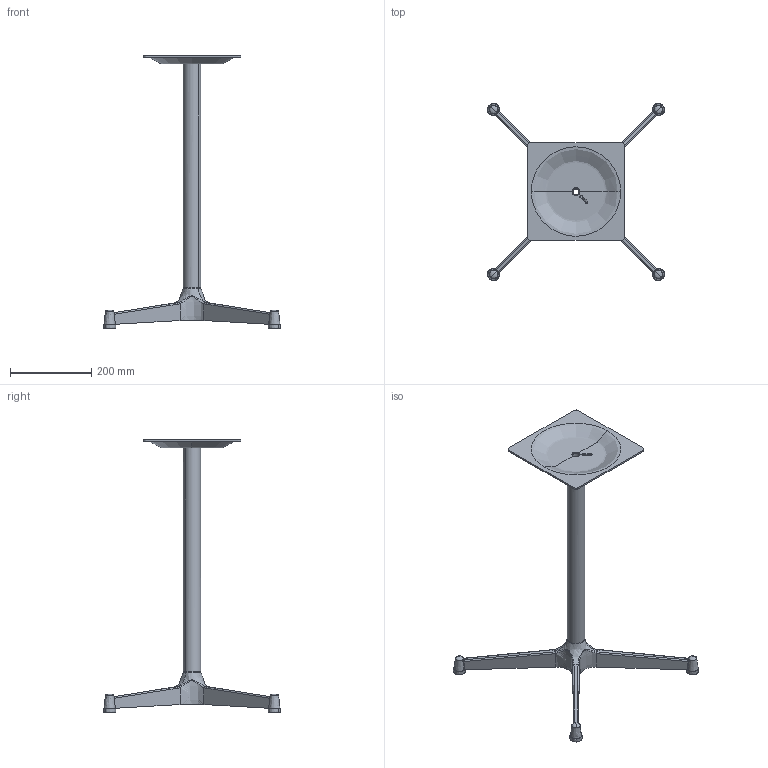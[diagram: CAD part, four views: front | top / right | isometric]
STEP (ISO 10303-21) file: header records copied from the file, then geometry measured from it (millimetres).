
FILE_DESCRIPTION(/* description */ (''),/* implementation_level */ '2;1');
FILE_NAME(/* name */ 'kinoshita_coccole_cl12b',/* time_stamp */ '2025-05-09T11:52:15+09:00',/* author */ (''),/* organization */ (''),/* preprocessor_version */ 'ST-DEVELOPER v16.5',/* originating_system */ '',/* authorisation */ '');
FILE_SCHEMA (('AUTOMOTIVE_DESIGN'));
Length unit declared in the file: millimetre
Products named in the file (1): Document
Bounding box: 435 x 435 x 670 mm (x, y, z)
Volume: 1858868.1 mm3; surface area: 365933.7 mm2
Topology: 1 solids, 1 shells, 143 faces, 374 edges, 229 vertices
Faces by surface type: bspline 118, plane 25
Entity records: 41197 total; most frequent: CARTESIAN_POINT 39006, ORIENTED_EDGE 732, EDGE_CURVE 366, B_SPLINE_CURVE_WITH_KNOTS 253, VERTEX_POINT 229, EDGE_LOOP 151, ADVANCED_FACE 143, FACE_OUTER_BOUND 143
